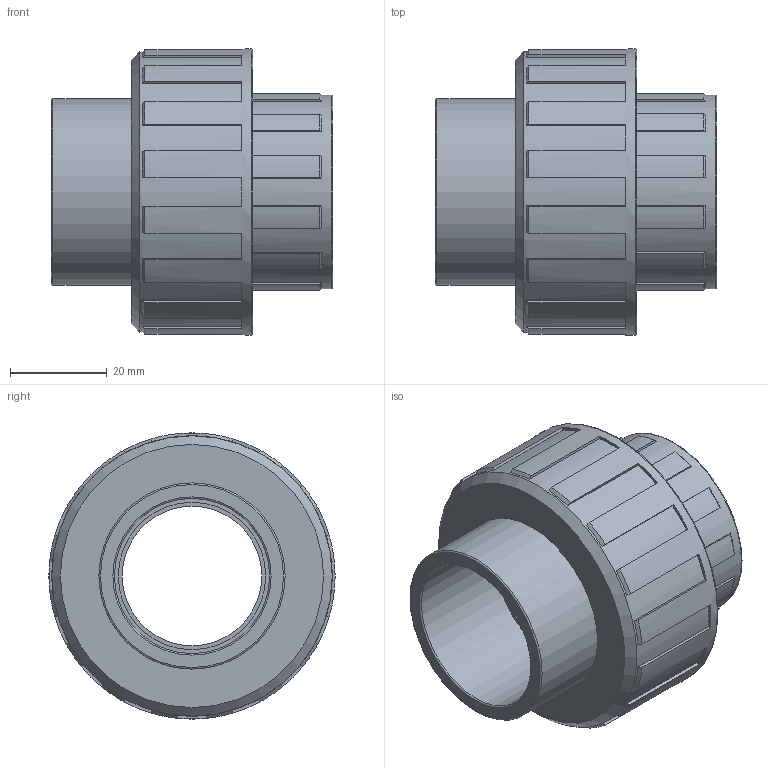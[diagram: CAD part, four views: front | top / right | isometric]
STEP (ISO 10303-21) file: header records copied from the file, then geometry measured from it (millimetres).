
FILE_DESCRIPTION(/* description */ ('PLASSON UNION+O RING-CEM PVC 32'),/* implementation_level */ '2;1');
FILE_NAME(/* name */ 'C:\Dropbox\KIMPROJECTS-Inventor\99-16-3568-Processing\PVC Catalog 2017\050800\050800032.ipt.stp',/* time_stamp */ '2017-12-07T15:57:46+02:00',/* author */ ('Кирилл'),/* organization */ (''),/* preprocessor_version */ 'ST-DEVELOPER v15.6',/* originating_system */ 'Autodesk Inventor 2015',/* authorisation */ '');
FILE_SCHEMA (('AUTOMOTIVE_DESIGN { 1 0 10303 214 3 1 1 }'));
Length unit declared in the file: millimetre
Products named in the file (1): 050800032
Bounding box: 58 x 59 x 59 mm (x, y, z)
Volume: 62286 mm3; surface area: 18748.8 mm2
Topology: 1 solids, 1 shells, 133 faces, 372 edges, 246 vertices
Faces by surface type: plane 79, cone 29, cylinder 20, torus 5
Full cylindrical faces by diameter (mm): 28.8 x1, 30.4 x1, 32 x2, 38.4 x1, 40 x1, 57.82 x1, 59 x1
Entity records: 4240 total; most frequent: DIRECTION 754, CARTESIAN_POINT 732, ORIENTED_EDGE 710, EDGE_CURVE 355, AXIS2_PLACEMENT_3D 265, VERTEX_POINT 243, LINE 224, VECTOR 224
